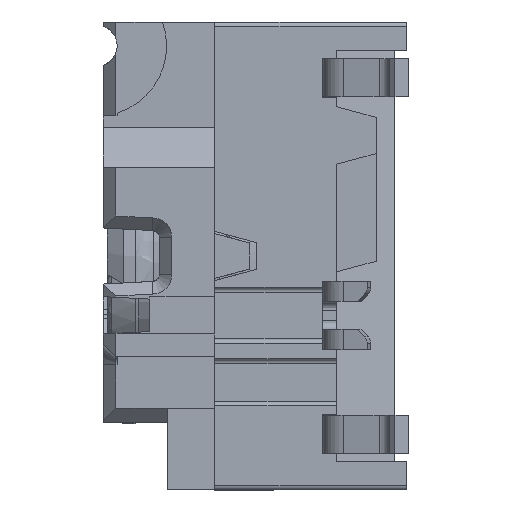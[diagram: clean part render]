
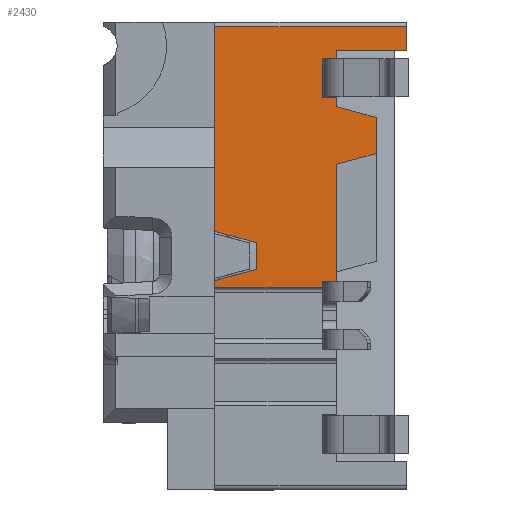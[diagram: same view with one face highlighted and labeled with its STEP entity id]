
A CAD part, left-side view. The second image highlights one B-rep face of the part: STEP entity #2430.
In plain terms, the highlighted planar face has unit normal (-1, 0, 0).
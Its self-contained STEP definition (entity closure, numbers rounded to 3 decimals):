
#1527=CARTESIAN_POINT('',(-5.0,-0.527,-0.1));
#1528=VERTEX_POINT('',#1527);
#1535=CARTESIAN_POINT('',(-5.,-0.286,0.8));
#1536=VERTEX_POINT('',#1535);
#1537=CARTESIAN_POINT('',(-5.,-0.286,0.8));
#1538=DIRECTION('',(0.0,-0.259,-0.966));
#1539=VECTOR('',#1538,0.932);
#1540=LINE('',#1537,#1539);
#1541=EDGE_CURVE('',#1536,#1528,#1540,.T.);
#1567=CARTESIAN_POINT('',(-5.,-0.67,2.2));
#1568=VERTEX_POINT('',#1567);
#1575=CARTESIAN_POINT('',(-5.,-0.67,-0.1));
#1576=VERTEX_POINT('',#1575);
#1577=CARTESIAN_POINT('',(-5.0,-0.67,-0.1));
#1578=DIRECTION('',(0.0,0.0,1.0));
#1579=VECTOR('',#1578,2.3);
#1580=LINE('',#1577,#1579);
#1581=EDGE_CURVE('',#1576,#1568,#1580,.T.);
#2262=CARTESIAN_POINT('',(-5.,4.9,4.0));
#2263=VERTEX_POINT('',#2262);
#2272=CARTESIAN_POINT('',(-5.,4.9,-0.1));
#2273=VERTEX_POINT('',#2272);
#2281=CARTESIAN_POINT('',(-5.,4.9,-0.1));
#2282=DIRECTION('',(0.0,0.0,1.0));
#2283=VECTOR('',#2282,4.1);
#2284=LINE('',#2281,#2283);
#2285=EDGE_CURVE('',#2273,#2263,#2284,.T.);
#2290=CARTESIAN_POINT('',(-5.,-5.,0.0));
#2291=DIRECTION('',(-1.0,0.0,0.0));
#2292=DIRECTION('',(0.0,0.0,1.0));
#2293=AXIS2_PLACEMENT_3D('',#2290,#2291,#2292);
#2294=PLANE('',#2293);
#2295=CARTESIAN_POINT('',(-5.0,1.96,2.5));
#2296=VERTEX_POINT('',#2295);
#2297=CARTESIAN_POINT('',(-5.0,2.188,3.35));
#2298=VERTEX_POINT('',#2297);
#2299=CARTESIAN_POINT('',(-5.0,1.96,2.5));
#2300=DIRECTION('',(0.0,0.259,0.966));
#2301=VECTOR('',#2300,0.88);
#2302=LINE('',#2299,#2301);
#2303=EDGE_CURVE('',#2296,#2298,#2302,.T.);
#2304=ORIENTED_EDGE('',*,*,#2303,.T.);
#2305=CARTESIAN_POINT('',(-5.0,2.962,3.35));
#2306=VERTEX_POINT('',#2305);
#2307=CARTESIAN_POINT('',(-5.0,2.188,3.35));
#2308=DIRECTION('',(0.0,1.0,0.0));
#2309=VECTOR('',#2308,0.774);
#2310=LINE('',#2307,#2309);
#2311=EDGE_CURVE('',#2298,#2306,#2310,.T.);
#2312=ORIENTED_EDGE('',*,*,#2311,.T.);
#2313=CARTESIAN_POINT('',(-5.0,3.19,2.5));
#2314=VERTEX_POINT('',#2313);
#2315=CARTESIAN_POINT('',(-5.0,2.962,3.35));
#2316=DIRECTION('',(0.0,0.259,-0.966));
#2317=VECTOR('',#2316,0.88);
#2318=LINE('',#2315,#2317);
#2319=EDGE_CURVE('',#2306,#2314,#2318,.T.);
#2320=ORIENTED_EDGE('',*,*,#2319,.T.);
#2321=CARTESIAN_POINT('',(-5.0,3.39,2.5));
#2322=VERTEX_POINT('',#2321);
#2323=CARTESIAN_POINT('',(-5.0,3.19,2.5));
#2324=DIRECTION('',(0.0,1.0,0.0));
#2325=VECTOR('',#2324,0.2);
#2326=LINE('',#2323,#2325);
#2327=EDGE_CURVE('',#2314,#2322,#2326,.T.);
#2328=ORIENTED_EDGE('',*,*,#2327,.T.);
#2329=CARTESIAN_POINT('',(-5.0,3.39,2.2));
#2330=VERTEX_POINT('',#2329);
#2331=CARTESIAN_POINT('',(-5.,3.39,2.5));
#2332=DIRECTION('',(0.0,0.0,-1.0));
#2333=VECTOR('',#2332,0.3);
#2334=LINE('',#2331,#2333);
#2335=EDGE_CURVE('',#2322,#2330,#2334,.T.);
#2336=ORIENTED_EDGE('',*,*,#2335,.T.);
#2337=CARTESIAN_POINT('',(-5.0,4.21,2.2));
#2338=VERTEX_POINT('',#2337);
#2339=CARTESIAN_POINT('',(-5.,3.39,2.2));
#2340=DIRECTION('',(0.0,1.0,0.0));
#2341=VECTOR('',#2340,0.82);
#2342=LINE('',#2339,#2341);
#2343=EDGE_CURVE('',#2330,#2338,#2342,.T.);
#2344=ORIENTED_EDGE('',*,*,#2343,.T.);
#2345=CARTESIAN_POINT('',(-5.0,4.21,2.5));
#2346=VERTEX_POINT('',#2345);
#2347=CARTESIAN_POINT('',(-5.,4.21,2.2));
#2348=DIRECTION('',(0.0,0.0,1.0));
#2349=VECTOR('',#2348,0.3);
#2350=LINE('',#2347,#2349);
#2351=EDGE_CURVE('',#2338,#2346,#2350,.T.);
#2352=ORIENTED_EDGE('',*,*,#2351,.T.);
#2353=CARTESIAN_POINT('',(-5.0,4.4,2.5));
#2354=VERTEX_POINT('',#2353);
#2355=CARTESIAN_POINT('',(-5.,4.21,2.5));
#2356=DIRECTION('',(0.0,1.0,0.0));
#2357=VECTOR('',#2356,0.19);
#2358=LINE('',#2355,#2357);
#2359=EDGE_CURVE('',#2346,#2354,#2358,.T.);
#2360=ORIENTED_EDGE('',*,*,#2359,.T.);
#2361=CARTESIAN_POINT('',(-5.,4.4,4.0));
#2362=VERTEX_POINT('',#2361);
#2363=CARTESIAN_POINT('',(-5.,4.4,2.5));
#2364=DIRECTION('',(0.0,0.0,1.0));
#2365=VECTOR('',#2364,1.5);
#2366=LINE('',#2363,#2365);
#2367=EDGE_CURVE('',#2354,#2362,#2366,.T.);
#2368=ORIENTED_EDGE('',*,*,#2367,.T.);
#2369=CARTESIAN_POINT('',(-5.,4.4,4.0));
#2370=DIRECTION('',(0.0,1.0,0.0));
#2371=VECTOR('',#2370,0.5);
#2372=LINE('',#2369,#2371);
#2373=EDGE_CURVE('',#2362,#2263,#2372,.T.);
#2374=ORIENTED_EDGE('',*,*,#2373,.T.);
#2375=ORIENTED_EDGE('',*,*,#2285,.F.);
#2376=CARTESIAN_POINT('',(-5.,0.527,-0.1));
#2377=VERTEX_POINT('',#2376);
#2378=CARTESIAN_POINT('',(-5.0,0.527,-0.1));
#2379=DIRECTION('',(0.0,1.0,0.0));
#2380=VECTOR('',#2379,4.373);
#2381=LINE('',#2378,#2380);
#2382=EDGE_CURVE('',#2377,#2273,#2381,.T.);
#2383=ORIENTED_EDGE('',*,*,#2382,.F.);
#2384=CARTESIAN_POINT('',(-5.,0.286,0.8));
#2385=VERTEX_POINT('',#2384);
#2386=CARTESIAN_POINT('',(-5.0,0.527,-0.1));
#2387=DIRECTION('',(0.0,-0.259,0.966));
#2388=VECTOR('',#2387,0.932);
#2389=LINE('',#2386,#2388);
#2390=EDGE_CURVE('',#2377,#2385,#2389,.T.);
#2391=ORIENTED_EDGE('',*,*,#2390,.T.);
#2392=CARTESIAN_POINT('',(-5.,0.286,0.8));
#2393=DIRECTION('',(0.0,-1.0,0.0));
#2394=VECTOR('',#2393,0.571);
#2395=LINE('',#2392,#2394);
#2396=EDGE_CURVE('',#2385,#1536,#2395,.T.);
#2397=ORIENTED_EDGE('',*,*,#2396,.T.);
#2398=ORIENTED_EDGE('',*,*,#1541,.T.);
#2399=CARTESIAN_POINT('',(-5.0,-0.67,-0.1));
#2400=DIRECTION('',(0.0,1.0,0.0));
#2401=VECTOR('',#2400,0.143);
#2402=LINE('',#2399,#2401);
#2403=EDGE_CURVE('',#1576,#1528,#2402,.T.);
#2404=ORIENTED_EDGE('',*,*,#2403,.F.);
#2405=ORIENTED_EDGE('',*,*,#1581,.T.);
#2406=CARTESIAN_POINT('',(-5.,-0.54,2.2));
#2407=VERTEX_POINT('',#2406);
#2408=CARTESIAN_POINT('',(-5.0,-0.67,2.2));
#2409=DIRECTION('',(0.0,1.0,0.0));
#2410=VECTOR('',#2409,0.13);
#2411=LINE('',#2408,#2410);
#2412=EDGE_CURVE('',#1568,#2407,#2411,.T.);
#2413=ORIENTED_EDGE('',*,*,#2412,.T.);
#2414=CARTESIAN_POINT('',(-5.,-0.54,2.5));
#2415=VERTEX_POINT('',#2414);
#2416=CARTESIAN_POINT('',(-5.0,-0.54,2.2));
#2417=DIRECTION('',(0.0,0.0,1.0));
#2418=VECTOR('',#2417,0.3);
#2419=LINE('',#2416,#2418);
#2420=EDGE_CURVE('',#2407,#2415,#2419,.T.);
#2421=ORIENTED_EDGE('',*,*,#2420,.T.);
#2422=CARTESIAN_POINT('',(-5.,-0.54,2.5));
#2423=DIRECTION('',(0.0,1.0,0.0));
#2424=VECTOR('',#2423,2.5);
#2425=LINE('',#2422,#2424);
#2426=EDGE_CURVE('',#2415,#2296,#2425,.T.);
#2427=ORIENTED_EDGE('',*,*,#2426,.T.);
#2428=EDGE_LOOP('',(#2304,#2312,#2320,#2328,#2336,#2344,#2352,#2360,#2368,#2374,#2375,#2383,#2391,#2397,#2398,#2404,#2405,#2413,#2421,#2427));
#2429=FACE_OUTER_BOUND('',#2428,.T.);
#2430=ADVANCED_FACE('',(#2429),#2294,.T.);
